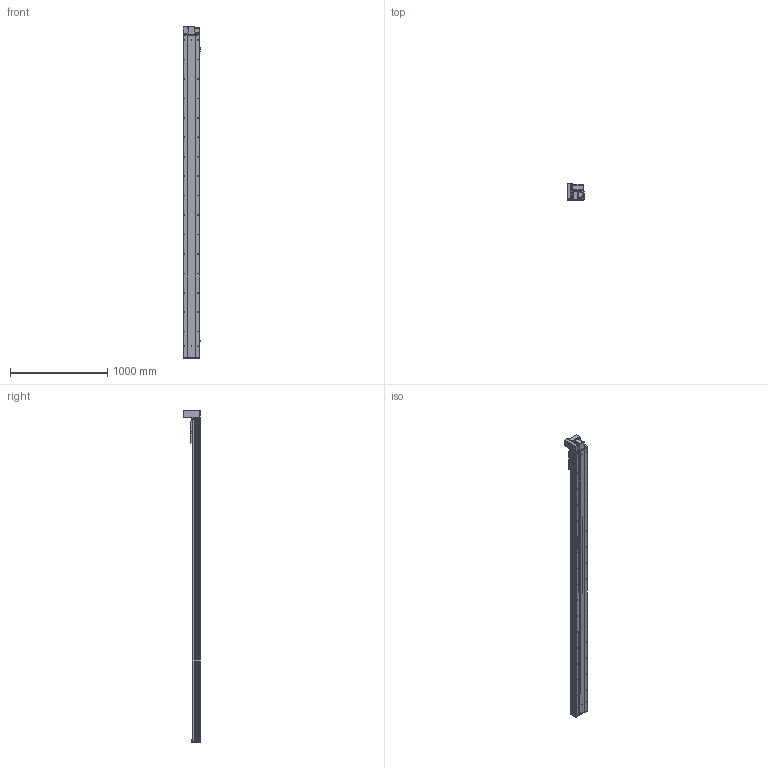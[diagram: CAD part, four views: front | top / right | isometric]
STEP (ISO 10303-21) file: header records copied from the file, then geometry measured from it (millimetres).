
FILE_DESCRIPTION (( 'STEP AP203' ), '1' );
FILE_NAME ('Y170CB-D105-S3000-UL-P400W.STEP', '2020-02-20T03:19:05', ( '微软用户' ), ( '微软中国' ), 'SwSTEP 2.0', 'SolidWorks 2017', '' );
FILE_SCHEMA (( 'CONFIG_CONTROL_DESIGN' ));
Length unit declared in the file: millimetre
Products named in the file (18): Y170CB-D105-S3000-UL-P400W; 0C--雄赽釱俋欶-170; 0B-萇儂楊擘啣; 70CB-詩湍--; san松下电机400不带刹车----; Y100-135俋离換覜ん--; 70CB-掛极-; Y170CB-陔俋离換覜結え---; --70CB --喘謫眊楊擘啣-; 70B喘謫眊----; 70CB-耜裔啣-; Y1埴倛裔; 70C--詩湍揤踡え-; 17B-耜蚾蟀諉啣----; 70CB--耜裔; 00B-俋欶BM--163; 70C-雄赽釱-奻-; B-源倛裔啣
Assembly tree (21 placements, depth 2):
  Y170CB-D105-S3000-UL-P400W
    B-源倛裔啣
    0B-萇儂楊擘啣
    san松下电机400不带刹车----
    70CB-掛极-
    --70CB --喘謫眊楊擘啣-
    70CB-耜裔啣-  x2
    70C--詩湍揤踡え-  x2
    70CB--耜裔
    70C-雄赽釱-奻-
    0C--雄赽釱俋欶-170
    70CB-詩湍--
    Y100-135俋离換覜ん--  x3
    Y170CB-陔俋离換覜結え---
    70B喘謫眊----
    Y1埴倛裔
    17B-耜蚾蟀諉啣----
    00B-俋欶BM--163
Bounding box: 183.5 x 174 x 3416 mm (x, y, z)
Volume: 14414244.1 mm3; surface area: 5211014.4 mm2
Topology: 21 solids, 21 shells, 1087 faces, 2933 edges, 1946 vertices
Faces by surface type: cylinder 601, plane 462, cone 24
Entity records: 34956 total; most frequent: CARTESIAN_POINT 6456, DIRECTION 5690, ORIENTED_EDGE 5348, EDGE_CURVE 2674, AXIS2_PLACEMENT_3D 2108, VERTEX_POINT 1776, LINE 1474, VECTOR 1474
